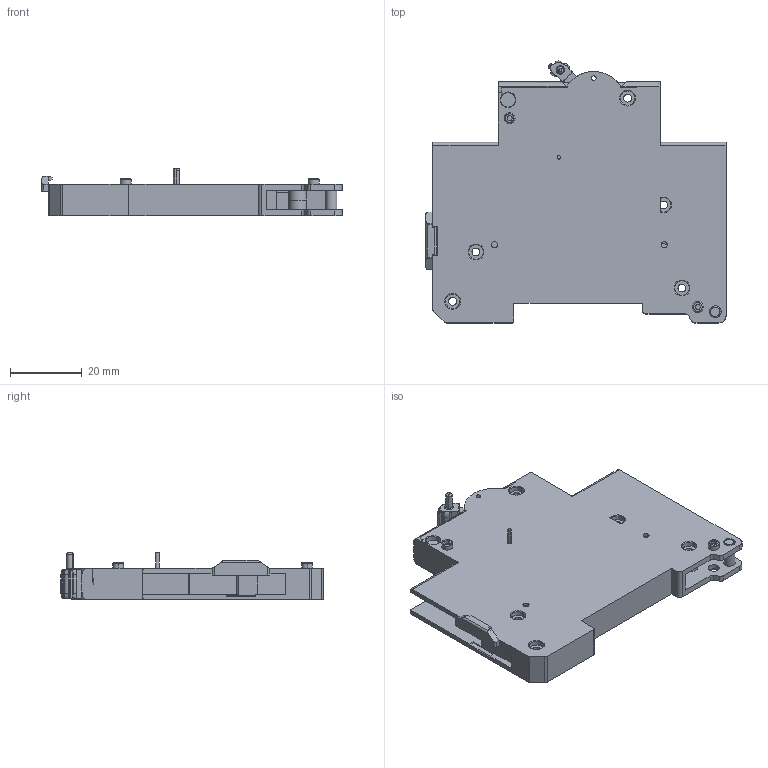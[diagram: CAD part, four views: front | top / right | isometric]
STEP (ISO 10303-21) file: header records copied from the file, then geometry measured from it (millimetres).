
FILE_DESCRIPTION (( 'STEP AP214' ), '1' );
FILE_NAME ('2MG.818.110.2 OF-1.STEP', '2026-07-07T07:42:36', ( '' ), ( '' ), 'SwSTEP 2.0', 'SolidWorks 2022', '' );
FILE_SCHEMA (( 'AUTOMOTIVE_DESIGN' ));
Length unit declared in the file: millimetre
Products named in the file (1): 2MG.818.110.2 OF-1
Bounding box: 83.4 x 72.85 x 13.23 mm (x, y, z)
Volume: 34094.1 mm3; surface area: 19392.9 mm2
Topology: 1 solids, 18 shells, 1154 faces, 3014 edges, 1939 vertices
Faces by surface type: plane 671, cylinder 290, bspline 71, cone 67, torus 55
Entity records: 48830 total; most frequent: CARTESIAN_POINT 20738, ORIENTED_EDGE 6026, DIRECTION 5584, EDGE_CURVE 3013, LINE 1946, VECTOR 1946, VERTEX_POINT 1939, AXIS2_PLACEMENT_3D 1819
